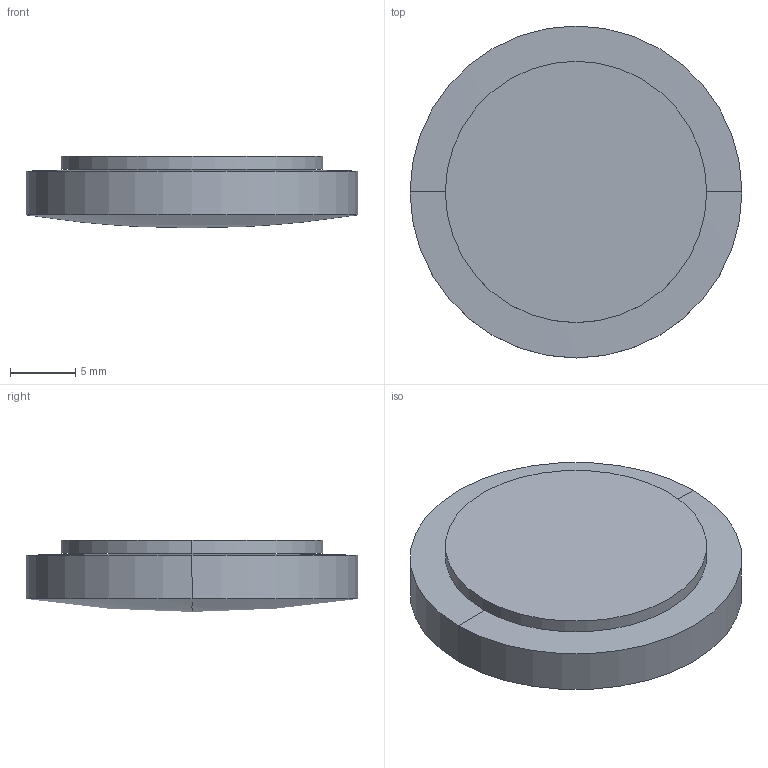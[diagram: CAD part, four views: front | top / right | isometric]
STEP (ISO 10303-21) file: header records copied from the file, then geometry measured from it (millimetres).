
FILE_DESCRIPTION(('STEP AP214'),'1');
FILE_NAME('LLV-25140.STEP','2020-03-09T17:42:20',(' '),(' '),'Spatial InterOp 3D',' ',' ');
FILE_SCHEMA(('AUTOMOTIVE_DESIGN { 1 0 10303 214 1 1 1 1 }'));
Length unit declared in the file: millimetre
Products named in the file (1): 1
Bounding box: 25.4 x 25.4 x 5.5 mm (x, y, z)
Volume: 2304.2 mm3; surface area: 1975.3 mm2
Topology: 2 solids, 2 shells, 10 faces, 20 edges, 10 vertices
Faces by surface type: sphere 4, cylinder 4, plane 2
Entity records: 255 total; most frequent: DIRECTION 52, CARTESIAN_POINT 38, ORIENTED_EDGE 32, AXIS2_PLACEMENT_3D 24, EDGE_CURVE 16, CIRCLE 12, ADVANCED_FACE 10, FACE_OUTER_BOUND 10
